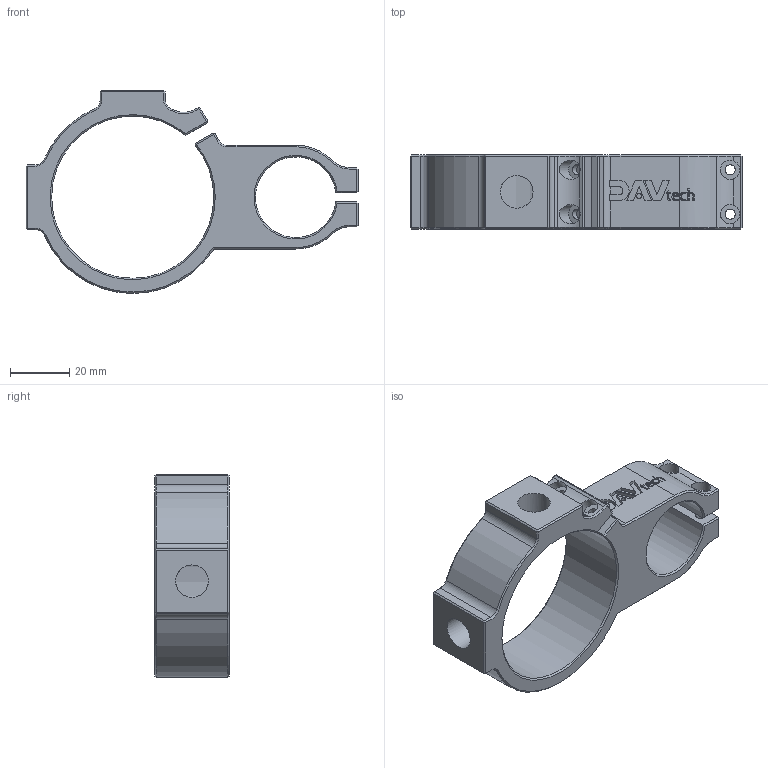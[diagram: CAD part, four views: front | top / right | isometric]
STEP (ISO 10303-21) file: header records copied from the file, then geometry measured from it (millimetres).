
FILE_DESCRIPTION (( 'STEP AP214' ), '1' );
FILE_NAME ('Supporto portacartuccia 310cc PCP Ø27 220422500000.STEP', '2024-10-14T13:05:33', ( '' ), ( '' ), 'SwSTEP 2.0', 'SolidWorks 2024', '' );
FILE_SCHEMA (( 'AUTOMOTIVE_DESIGN' ));
Length unit declared in the file: millimetre
Products named in the file (1): Supporto portacartuccia 310cc PCP Ø27 220422500000
Bounding box: 112 x 25 x 68.5 mm (x, y, z)
Volume: 45057.4 mm3; surface area: 20576.8 mm2
Topology: 1 solids, 1 shells, 281 faces, 693 edges, 424 vertices
Faces by surface type: plane 181, bspline 37, cylinder 33, cone 30
Full cylindrical faces by diameter (mm): 3.4 x8, 6.5 x4, 11 x2
Entity records: 9291 total; most frequent: CARTESIAN_POINT 3015, ORIENTED_EDGE 1346, DIRECTION 1141, EDGE_CURVE 673, LINE 455, VECTOR 455, VERTEX_POINT 418, AXIS2_PLACEMENT_3D 343
